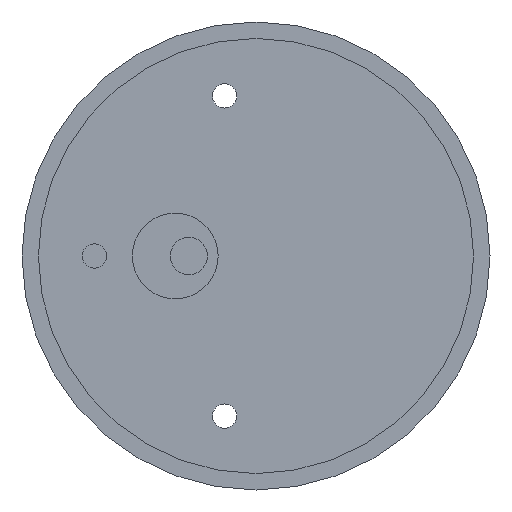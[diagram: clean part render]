
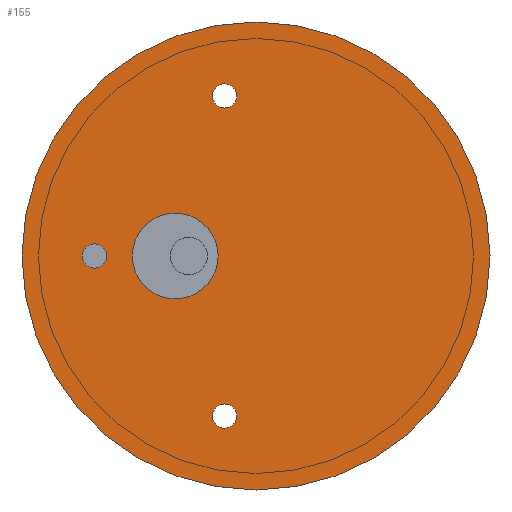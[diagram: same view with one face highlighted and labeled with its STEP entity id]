
A CAD part, left-side view. The second image highlights one B-rep face of the part: STEP entity #155.
In plain terms, the highlighted planar face has unit normal (-1, 0, 0).
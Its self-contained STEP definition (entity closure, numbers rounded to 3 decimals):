
#155 = ADVANCED_FACE( '', ( #444, #445, #446, #447, #448 ), #449, .F. );
#444 = FACE_OUTER_BOUND( '', #860, .T. );
#445 = FACE_BOUND( '', #861, .T. );
#446 = FACE_BOUND( '', #862, .T. );
#447 = FACE_BOUND( '', #863, .T. );
#448 = FACE_BOUND( '', #864, .T. );
#449 = PLANE( '', #865 );
#860 = EDGE_LOOP( '', ( #1785 ) );
#861 = EDGE_LOOP( '', ( #1786 ) );
#862 = EDGE_LOOP( '', ( #1787 ) );
#863 = EDGE_LOOP( '', ( #1788 ) );
#864 = EDGE_LOOP( '', ( #1789 ) );
#865 = AXIS2_PLACEMENT_3D( '', #1790, #1791, #1792 );
#1785 = ORIENTED_EDGE( '', *, *, #2985, .F. );
#1786 = ORIENTED_EDGE( '', *, *, #2986, .T. );
#1787 = ORIENTED_EDGE( '', *, *, #2987, .T. );
#1788 = ORIENTED_EDGE( '', *, *, #2988, .T. );
#1789 = ORIENTED_EDGE( '', *, *, #2989, .T. );
#1790 = CARTESIAN_POINT( '', ( 0., 0., 0. ) );
#1791 = DIRECTION( '', ( 1., 0., 0. ) );
#1792 = DIRECTION( '', ( 0., 0., -1. ) );
#2985 = EDGE_CURVE( '', #3738, #3738, #3739, .T. );
#2986 = EDGE_CURVE( '', #3740, #3740, #3741, .T. );
#2987 = EDGE_CURVE( '', #3742, #3742, #3743, .T. );
#2988 = EDGE_CURVE( '', #3744, #3744, #3745, .T. );
#2989 = EDGE_CURVE( '', #3746, #3746, #3747, .T. );
#3738 = VERTEX_POINT( '', #4865 );
#3739 = CIRCLE( '', #4866, 81.85 );
#3740 = VERTEX_POINT( '', #4867 );
#3741 = CIRCLE( '', #4868, 4.25 );
#3742 = VERTEX_POINT( '', #4869 );
#3743 = CIRCLE( '', #4870, 15. );
#3744 = VERTEX_POINT( '', #4871 );
#3745 = CIRCLE( '', #4872, 4.25 );
#3746 = VERTEX_POINT( '', #4873 );
#3747 = CIRCLE( '', #4874, 4.25 );
#4865 = CARTESIAN_POINT( '', ( 0., 0., -81.85 ) );
#4866 = AXIS2_PLACEMENT_3D( '', #5811, #5812, #5813 );
#4867 = CARTESIAN_POINT( '', ( 0., 56.5, -4.25 ) );
#4868 = AXIS2_PLACEMENT_3D( '', #5814, #5815, #5816 );
#4869 = CARTESIAN_POINT( '', ( 0., 28.25, -15. ) );
#4870 = AXIS2_PLACEMENT_3D( '', #5817, #5818, #5819 );
#4871 = CARTESIAN_POINT( '', ( 0., 11., 51.75 ) );
#4872 = AXIS2_PLACEMENT_3D( '', #5820, #5821, #5822 );
#4873 = CARTESIAN_POINT( '', ( 0., 11., -60.25 ) );
#4874 = AXIS2_PLACEMENT_3D( '', #5823, #5824, #5825 );
#5811 = CARTESIAN_POINT( '', ( 0., 0., 0. ) );
#5812 = DIRECTION( '', ( 1., 0., 0. ) );
#5813 = DIRECTION( '', ( 0., 0., -1. ) );
#5814 = CARTESIAN_POINT( '', ( 0., 56.5, 0. ) );
#5815 = DIRECTION( '', ( 1., 0., 0. ) );
#5816 = DIRECTION( '', ( 0., 0., -1. ) );
#5817 = CARTESIAN_POINT( '', ( 0., 28.25, 0. ) );
#5818 = DIRECTION( '', ( 1., 0., 0. ) );
#5819 = DIRECTION( '', ( 0., 0., -1. ) );
#5820 = CARTESIAN_POINT( '', ( 0., 11., 56. ) );
#5821 = DIRECTION( '', ( 1., 0., 0. ) );
#5822 = DIRECTION( '', ( 0., 0., -1. ) );
#5823 = CARTESIAN_POINT( '', ( 0., 11., -56. ) );
#5824 = DIRECTION( '', ( 1., 0., 0. ) );
#5825 = DIRECTION( '', ( 0., 0., -1. ) );
